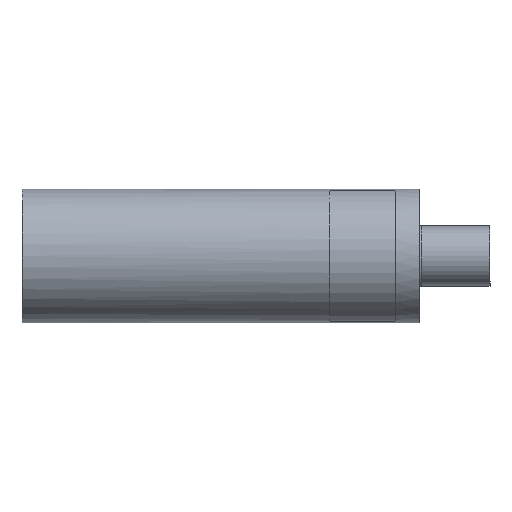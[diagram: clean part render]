
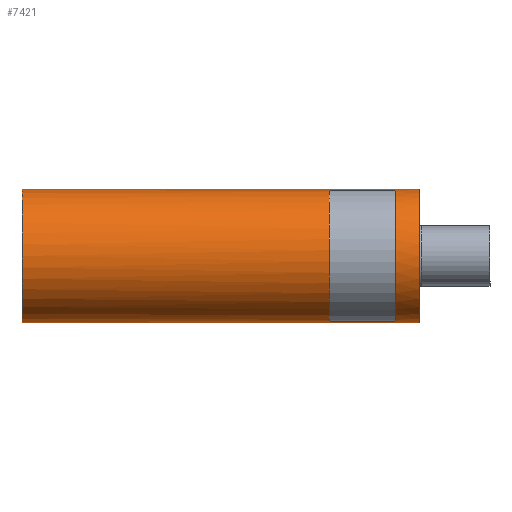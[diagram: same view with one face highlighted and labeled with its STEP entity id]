
A CAD part, top view. The second image highlights one B-rep face of the part: STEP entity #7421.
In plain terms, the highlighted cylindrical face has radius 14.15 mm (diameter 28.3 mm), a partial arc.
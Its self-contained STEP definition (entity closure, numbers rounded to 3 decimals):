
#134=B_SPLINE_CURVE_WITH_KNOTS($,3,(#12145,#12146,#12147,#12148,#12149,
#12150,#12151,#12152,#12153,#12154),.UNSPECIFIED.,.F.,.F.,(4,2,2,2,4),(-0.151,
-0.113,-0.075,-0.038,0.),
 .UNSPECIFIED.);
#138=B_SPLINE_CURVE_WITH_KNOTS($,3,(#12203,#12204,#12205,#12206,#12207,
#12208,#12209,#12210,#12211,#12212),.UNSPECIFIED.,.F.,.F.,(4,2,2,2,4),(0.,
0.038,0.075,0.113,0.151),
 .UNSPECIFIED.);
#139=B_SPLINE_CURVE_WITH_KNOTS($,3,(#12218,#12219,#12220,#12221,#12222,
#12223,#12224,#12225,#12226,#12227),.UNSPECIFIED.,.F.,.F.,(4,2,2,2,4),(0.151,
0.189,0.226,0.264,0.302),
 .UNSPECIFIED.);
#140=B_SPLINE_CURVE_WITH_KNOTS($,3,(#12235,#12236,#12237,#12238,#12239,
#12240,#12241,#12242,#12243,#12244),.UNSPECIFIED.,.F.,.F.,(4,2,2,2,4),(0.302,
0.34,0.377,0.415,0.453),
 .UNSPECIFIED.);
#209=FACE_BOUND($,#1043,.T.);
#210=FACE_BOUND($,#1044,.T.);
#317=CYLINDRICAL_SURFACE($,#7973,14.15);
#1043=EDGE_LOOP($,(#6144,#6145,#6146,#6147,#6148,#6149,#6150,#6151));
#1044=EDGE_LOOP($,(#6152,#6153,#6154,#6155,#6156,#6157,#6158,#6159));
#1231=CIRCLE($,#7763,14.15);
#1269=CIRCLE($,#7897,14.15);
#1270=CIRCLE($,#7901,14.15);
#1288=CIRCLE($,#7948,14.15);
#1289=CIRCLE($,#7949,14.15);
#1295=CIRCLE($,#7974,14.15);
#1857=LINE($,#12097,#2545);
#1867=LINE($,#12115,#2555);
#1879=LINE($,#12247,#2567);
#1880=LINE($,#12249,#2568);
#1944=LINE($,#12535,#2632);
#1962=LINE($,#12574,#2650);
#2545=VECTOR($,#9382,0.2);
#2555=VECTOR($,#9404,84.);
#2567=VECTOR($,#9458,12.);
#2568=VECTOR($,#9461,12.);
#2632=VECTOR($,#9609,0.2);
#2650=VECTOR($,#9653,84.);
#3124=VERTEX_POINT($,#11366);
#3126=VERTEX_POINT($,#11370);
#3221=VERTEX_POINT($,#12095);
#3222=VERTEX_POINT($,#12112);
#3223=VERTEX_POINT($,#12114);
#3229=VERTEX_POINT($,#12142);
#3230=VERTEX_POINT($,#12144);
#3237=VERTEX_POINT($,#12198);
#3238=VERTEX_POINT($,#12202);
#3239=VERTEX_POINT($,#12215);
#3240=VERTEX_POINT($,#12217);
#3241=VERTEX_POINT($,#12230);
#3242=VERTEX_POINT($,#12234);
#3306=VERTEX_POINT($,#12534);
#3307=VERTEX_POINT($,#12538);
#3314=VERTEX_POINT($,#12573);
#3953=EDGE_CURVE($,#3126,#3124,#1231,.T.);
#4133=EDGE_CURVE($,#3126,#3221,#1857,.T.);
#4143=EDGE_CURVE($,#3223,#3222,#1867,.T.);
#4153=EDGE_CURVE($,#3230,#3229,#134,.T.);
#4162=EDGE_CURVE($,#3237,#3230,#1269,.T.);
#4164=EDGE_CURVE($,#3238,#3237,#138,.T.);
#4167=EDGE_CURVE($,#3240,#3239,#139,.T.);
#4169=EDGE_CURVE($,#3241,#3240,#1270,.T.);
#4171=EDGE_CURVE($,#3242,#3241,#140,.T.);
#4173=EDGE_CURVE($,#3239,#3238,#1879,.T.);
#4174=EDGE_CURVE($,#3229,#3242,#1880,.T.);
#4263=EDGE_CURVE($,#3306,#3124,#1944,.T.);
#4265=EDGE_CURVE($,#3306,#3307,#1288,.T.);
#4267=EDGE_CURVE($,#3223,#3221,#1289,.T.);
#4285=EDGE_CURVE($,#3307,#3314,#1962,.T.);
#4310=EDGE_CURVE($,#3314,#3222,#1295,.T.);
#6144=ORIENTED_EDGE($,*,*,#4167,.T.);
#6145=ORIENTED_EDGE($,*,*,#4173,.T.);
#6146=ORIENTED_EDGE($,*,*,#4164,.T.);
#6147=ORIENTED_EDGE($,*,*,#4162,.T.);
#6148=ORIENTED_EDGE($,*,*,#4153,.T.);
#6149=ORIENTED_EDGE($,*,*,#4174,.T.);
#6150=ORIENTED_EDGE($,*,*,#4171,.T.);
#6151=ORIENTED_EDGE($,*,*,#4169,.T.);
#6152=ORIENTED_EDGE($,*,*,#4133,.T.);
#6153=ORIENTED_EDGE($,*,*,#4267,.F.);
#6154=ORIENTED_EDGE($,*,*,#4143,.T.);
#6155=ORIENTED_EDGE($,*,*,#4310,.F.);
#6156=ORIENTED_EDGE($,*,*,#4285,.F.);
#6157=ORIENTED_EDGE($,*,*,#4265,.F.);
#6158=ORIENTED_EDGE($,*,*,#4263,.T.);
#6159=ORIENTED_EDGE($,*,*,#3953,.F.);
#7421=ADVANCED_FACE($,(#209,#210),#317,.T.);
#7763=AXIS2_PLACEMENT_3D($,#11372,#9042,#9043);
#7897=AXIS2_PLACEMENT_3D($,#12199,#9438,#9439);
#7901=AXIS2_PLACEMENT_3D($,#12231,#9450,#9451);
#7948=AXIS2_PLACEMENT_3D($,#12539,#9613,#9614);
#7949=AXIS2_PLACEMENT_3D($,#12541,#9616,#9617);
#7973=AXIS2_PLACEMENT_3D($,#12618,#9701,#9702);
#7974=AXIS2_PLACEMENT_3D($,#12619,#9703,#9704);
#9042=DIRECTION('center_axis',(-1.,0.,0.));
#9043=DIRECTION('ref_axis',(0.,0.,
1.));
#9382=DIRECTION($,(-1.,0.,0.));
#9404=DIRECTION($,(1.,0.,0.));
#9438=DIRECTION('center_axis',(1.,0.,0.));
#9439=DIRECTION('ref_axis',(0.,0.,
-1.));
#9450=DIRECTION('center_axis',(-1.,0.,0.));
#9451=DIRECTION('ref_axis',(0.,0.,
-1.));
#9458=DIRECTION($,(1.,0.,0.));
#9461=DIRECTION($,(-1.,0.,0.));
#9609=DIRECTION($,(1.,0.,0.));
#9613=DIRECTION('center_axis',(-1.,0.,0.));
#9614=DIRECTION('ref_axis',(0.,0.,
-1.));
#9616=DIRECTION('center_axis',(-1.,0.,0.));
#9617=DIRECTION('ref_axis',(0.,0.,
-1.));
#9653=DIRECTION($,(1.,0.,0.));
#9701=DIRECTION('center_axis',(1.,0.,0.));
#9702=DIRECTION('ref_axis',(0.,0.,
-1.));
#9703=DIRECTION('center_axis',(1.,0.,0.));
#9704=DIRECTION('ref_axis',(0.,0.,
-1.));
#11366=CARTESIAN_POINT('',(-66.3,10.84,9.095));
#11370=CARTESIAN_POINT('',(-66.3,-10.84,9.095));
#11372=CARTESIAN_POINT('Origin',(-66.3,0.,
0.));
#12095=CARTESIAN_POINT('',(-66.5,-10.84,9.095));
#12097=CARTESIAN_POINT($,(-66.5,-10.84,9.095));
#12112=CARTESIAN_POINT('',(17.5,-14.15,0.));
#12114=CARTESIAN_POINT('',(-66.5,-14.15,0.));
#12115=CARTESIAN_POINT($,(-66.5,-14.15,0.));
#12142=CARTESIAN_POINT('',(11.5,-13.753,3.329));
#12144=CARTESIAN_POINT('',(12.5,-13.483,4.293));
#12145=CARTESIAN_POINT('Ctrl Pts',(12.5,-13.483,4.293));
#12146=CARTESIAN_POINT('Ctrl Pts',(12.5,-13.521,4.173));
#12147=CARTESIAN_POINT('Ctrl Pts',(12.475,-13.56,4.045));
#12148=CARTESIAN_POINT('Ctrl Pts',(12.373,-13.629,3.808));
#12149=CARTESIAN_POINT('Ctrl Pts',(12.296,-13.658,3.699));
#12150=CARTESIAN_POINT('Ctrl Pts',(12.118,-13.704,3.527));
#12151=CARTESIAN_POINT('Ctrl Pts',(12.006,-13.722,3.453));
#12152=CARTESIAN_POINT('Ctrl Pts',(11.76,-13.747,3.353));
#12153=CARTESIAN_POINT('Ctrl Pts',(11.626,-13.753,3.329));
#12154=CARTESIAN_POINT('Ctrl Pts',(11.5,-13.753,3.329));
#12198=CARTESIAN_POINT('',(12.5,13.483,4.293));
#12199=CARTESIAN_POINT('Origin',(12.5,0.,
0.));
#12202=CARTESIAN_POINT('',(11.5,13.753,3.329));
#12203=CARTESIAN_POINT('Ctrl Pts',(11.5,13.753,3.329));
#12204=CARTESIAN_POINT('Ctrl Pts',(11.626,13.753,3.329));
#12205=CARTESIAN_POINT('Ctrl Pts',(11.76,13.747,3.353));
#12206=CARTESIAN_POINT('Ctrl Pts',(12.006,13.722,3.453));
#12207=CARTESIAN_POINT('Ctrl Pts',(12.118,13.704,3.527));
#12208=CARTESIAN_POINT('Ctrl Pts',(12.296,13.658,3.699));
#12209=CARTESIAN_POINT('Ctrl Pts',(12.373,13.629,3.808));
#12210=CARTESIAN_POINT('Ctrl Pts',(12.475,13.56,4.045));
#12211=CARTESIAN_POINT('Ctrl Pts',(12.5,13.521,4.173));
#12212=CARTESIAN_POINT('Ctrl Pts',(12.5,13.483,4.293));
#12215=CARTESIAN_POINT('',(-0.5,13.753,3.329));
#12217=CARTESIAN_POINT('',(-1.5,13.483,4.293));
#12218=CARTESIAN_POINT('Ctrl Pts',(-1.5,13.483,4.293));
#12219=CARTESIAN_POINT('Ctrl Pts',(-1.5,13.521,4.173));
#12220=CARTESIAN_POINT('Ctrl Pts',(-1.475,13.56,4.045));
#12221=CARTESIAN_POINT('Ctrl Pts',(-1.373,13.629,3.808));
#12222=CARTESIAN_POINT('Ctrl Pts',(-1.296,13.658,3.699));
#12223=CARTESIAN_POINT('Ctrl Pts',(-1.118,13.704,3.527));
#12224=CARTESIAN_POINT('Ctrl Pts',(-1.006,13.722,3.453));
#12225=CARTESIAN_POINT('Ctrl Pts',(-0.76,13.747,
3.353));
#12226=CARTESIAN_POINT('Ctrl Pts',(-0.626,13.753,
3.329));
#12227=CARTESIAN_POINT('Ctrl Pts',(-0.5,13.753,
3.329));
#12230=CARTESIAN_POINT('',(-1.5,-13.483,4.293));
#12231=CARTESIAN_POINT('Origin',(-1.5,0.,
0.));
#12234=CARTESIAN_POINT('',(-0.5,-13.753,3.329));
#12235=CARTESIAN_POINT('Ctrl Pts',(-0.5,-13.753,
3.329));
#12236=CARTESIAN_POINT('Ctrl Pts',(-0.626,-13.753,
3.329));
#12237=CARTESIAN_POINT('Ctrl Pts',(-0.76,-13.747,
3.353));
#12238=CARTESIAN_POINT('Ctrl Pts',(-1.006,-13.722,3.453));
#12239=CARTESIAN_POINT('Ctrl Pts',(-1.118,-13.704,
3.527));
#12240=CARTESIAN_POINT('Ctrl Pts',(-1.296,-13.658,
3.699));
#12241=CARTESIAN_POINT('Ctrl Pts',(-1.373,-13.629,3.808));
#12242=CARTESIAN_POINT('Ctrl Pts',(-1.475,-13.56,
4.045));
#12243=CARTESIAN_POINT('Ctrl Pts',(-1.5,-13.521,
4.173));
#12244=CARTESIAN_POINT('Ctrl Pts',(-1.5,-13.483,
4.293));
#12247=CARTESIAN_POINT($,(-66.5,13.753,3.329));
#12249=CARTESIAN_POINT($,(-66.5,-13.753,3.329));
#12534=CARTESIAN_POINT('',(-66.5,10.84,9.095));
#12535=CARTESIAN_POINT($,(-66.5,10.84,9.095));
#12538=CARTESIAN_POINT('',(-66.5,14.15,0.));
#12539=CARTESIAN_POINT('Origin',(-66.5,0.,
0.));
#12541=CARTESIAN_POINT('Origin',(-66.5,0.,
0.));
#12573=CARTESIAN_POINT('',(17.5,14.15,0.));
#12574=CARTESIAN_POINT($,(-66.5,14.15,0.));
#12618=CARTESIAN_POINT('Origin',(-66.5,0.,
0.));
#12619=CARTESIAN_POINT('Origin',(17.5,0.,
0.));
